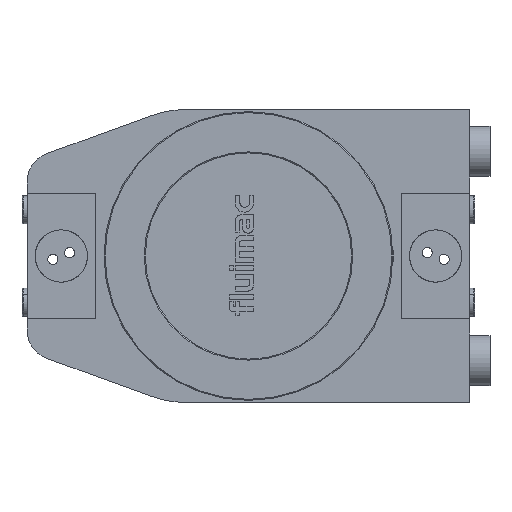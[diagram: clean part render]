
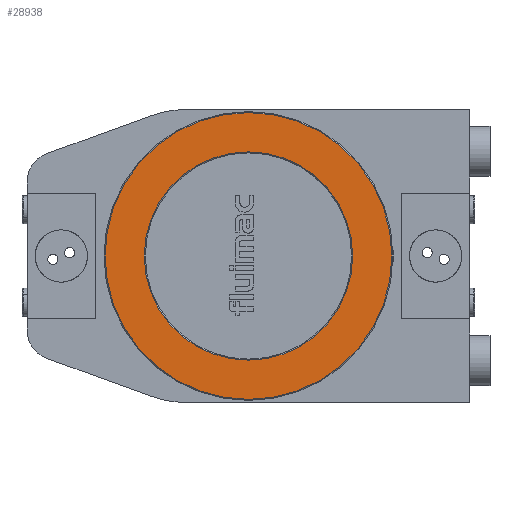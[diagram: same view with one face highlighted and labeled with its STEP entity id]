
A CAD part, left-side view. The second image highlights one B-rep face of the part: STEP entity #28938.
In plain terms, the highlighted planar face has unit normal (-1, 0, 0).
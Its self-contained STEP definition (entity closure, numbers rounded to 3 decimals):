
#1941 = ORIENTED_EDGE ( 'NONE', *, *, #44748, .T. ) ;
#2055 = EDGE_LOOP ( 'NONE', ( #72461, #7821 ) ) ;
#4296 = DIRECTION ( 'NONE',  ( 1., 0., 0. ) ) ;
#7821 = ORIENTED_EDGE ( 'NONE', *, *, #33868, .T. ) ;
#9932 = CARTESIAN_POINT ( 'NONE',  ( -179.5, 0., 0. ) ) ;
#10364 = DIRECTION ( 'NONE',  ( 0., -1., 0. ) ) ;
#15111 = CARTESIAN_POINT ( 'NONE',  ( -179.5, -142.5, 0. ) ) ;
#16661 = EDGE_CURVE ( 'NONE', #79836, #68408, #67180, .T. ) ;
#17962 = EDGE_CURVE ( 'NONE', #58683, #76765, #40893, .T. ) ;
#18103 = DIRECTION ( 'NONE',  ( -1., 0., 0. ) ) ;
#21442 = DIRECTION ( 'NONE',  ( 1., 0., 0. ) ) ;
#28413 = CARTESIAN_POINT ( 'NONE',  ( -179.5, 0., 0. ) ) ;
#28938 = ADVANCED_FACE ( 'NONE', ( #44418, #51809 ), #30925, .F. ) ;
#29640 = AXIS2_PLACEMENT_3D ( 'NONE', #63904, #4296, #10364 ) ;
#29693 = CIRCLE ( 'NONE', #82457, 103.5 ) ;
#30925 = PLANE ( 'NONE',  #71719 ) ;
#33868 = EDGE_CURVE ( 'NONE', #76765, #58683, #43713, .T. ) ;
#36467 = DIRECTION ( 'NONE',  ( -1., 0., 0. ) ) ;
#38142 = CARTESIAN_POINT ( 'NONE',  ( -179.5, -103.5, 0. ) ) ;
#39465 = AXIS2_PLACEMENT_3D ( 'NONE', #9932, #36467, #63026 ) ;
#40893 = CIRCLE ( 'NONE', #39465, 142.5 ) ;
#41062 = DIRECTION ( 'NONE',  ( 0., -1., 0. ) ) ;
#43713 = CIRCLE ( 'NONE', #77018, 142.5 ) ;
#44418 = FACE_BOUND ( 'NONE', #65983, .T. ) ;
#44748 = EDGE_CURVE ( 'NONE', #68408, #79836, #29693, .T. ) ;
#51264 = CARTESIAN_POINT ( 'NONE',  ( -179.5, 103.5, 0. ) ) ;
#51809 = FACE_OUTER_BOUND ( 'NONE', #2055, .T. ) ;
#58683 = VERTEX_POINT ( 'NONE', #15111 ) ;
#63026 = DIRECTION ( 'NONE',  ( 0., -1., 0. ) ) ;
#63904 = CARTESIAN_POINT ( 'NONE',  ( -179.5, 0., 0. ) ) ;
#64431 = DIRECTION ( 'NONE',  ( 1., 0., 0. ) ) ;
#65565 = DIRECTION ( 'NONE',  ( 0., -1., 0. ) ) ;
#65983 = EDGE_LOOP ( 'NONE', ( #76209, #1941 ) ) ;
#67180 = CIRCLE ( 'NONE', #29640, 103.5 ) ;
#68408 = VERTEX_POINT ( 'NONE', #38142 ) ;
#71719 = AXIS2_PLACEMENT_3D ( 'NONE', #84804, #64431, #78301 ) ;
#72461 = ORIENTED_EDGE ( 'NONE', *, *, #17962, .T. ) ;
#73268 = CARTESIAN_POINT ( 'NONE',  ( -179.5, 142.5, 0. ) ) ;
#76209 = ORIENTED_EDGE ( 'NONE', *, *, #16661, .T. ) ;
#76765 = VERTEX_POINT ( 'NONE', #73268 ) ;
#77018 = AXIS2_PLACEMENT_3D ( 'NONE', #77707, #18103, #65565 ) ;
#77707 = CARTESIAN_POINT ( 'NONE',  ( -179.5, 0., 0. ) ) ;
#78301 = DIRECTION ( 'NONE',  ( 0., -1., 0. ) ) ;
#79836 = VERTEX_POINT ( 'NONE', #51264 ) ;
#82457 = AXIS2_PLACEMENT_3D ( 'NONE', #28413, #21442, #41062 ) ;
#84804 = CARTESIAN_POINT ( 'NONE',  ( -179.5, 143.5, 0. ) ) ;
